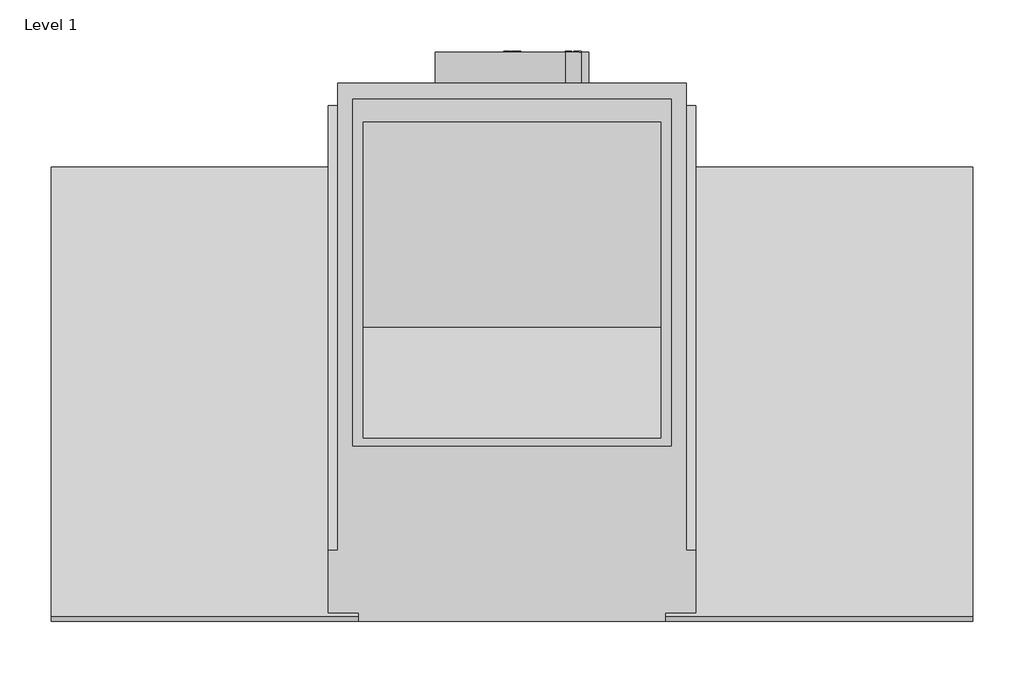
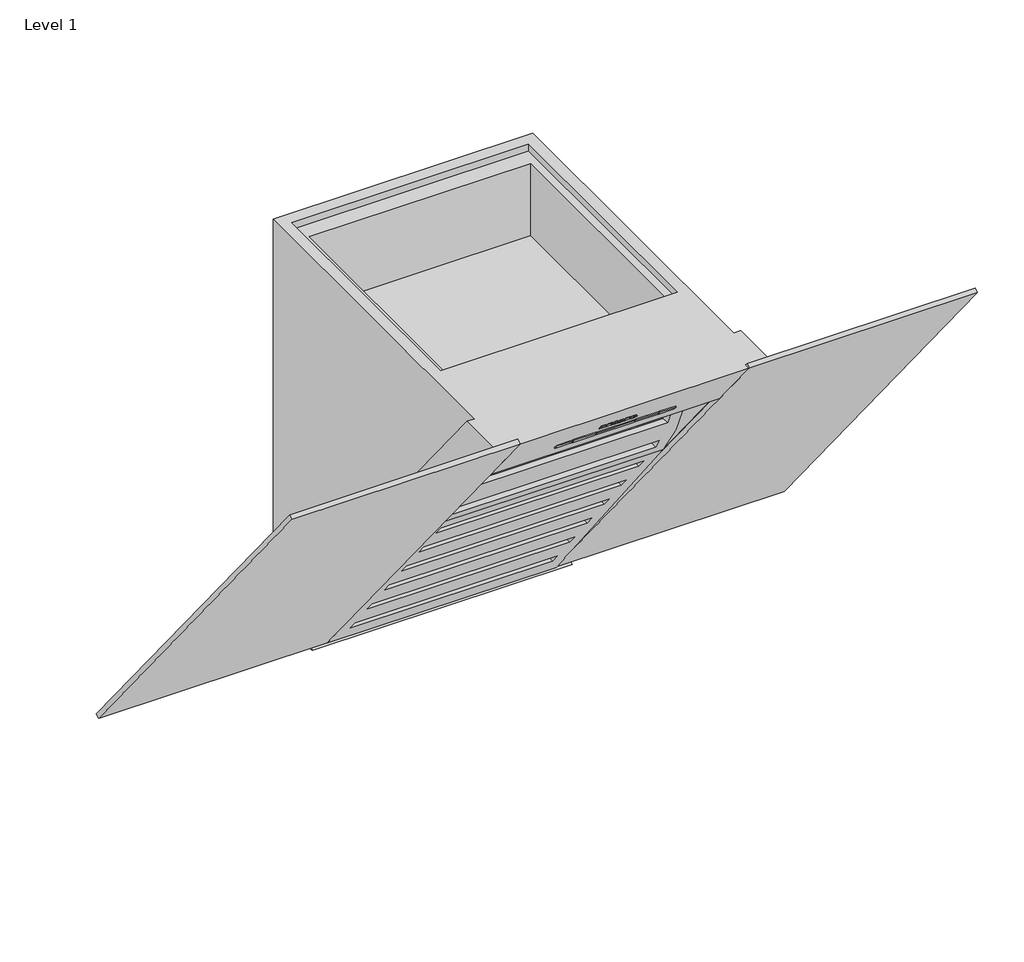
# One storey: 1 proxy.
"""IFC4 building model written with IfcOpenShell, lengths in millimetres."""

from ifc_helpers import new_model, si_unit, origin, place, context, project, spatial, transform, mapped, element, save
from components import specialty_equipment_932cc7be

model = new_model("IFC4")

# Units and contexts
model_context = context("Model", 3, world=origin())
ifc_project = project(units=[si_unit("LENGTHUNIT", "METRE", prefix="MILLI")], contexts=[model_context])

# Site, building, storey
site = spatial("IfcSite", under=ifc_project)
building = spatial("IfcBuilding", under=site)
storey = spatial("IfcBuildingStorey", under=building, Name="Level 1", Elevation=0.0)

# Proxy
placement = place(None, origin())
specialty_equipment_shape = specialty_equipment_932cc7be(model_context)
element("IfcBuildingElementProxy", 1, Name="09982550_IB_DA6096W_OBSW : 28609640_IB_9982550_DA6096W_OBSW", ObjectType="09982550_IB_DA6096W_OBSW : 28609640_IB_9982550_DA6096W_OBSW", at=placement, inside=storey, context=model_context, shape_type="MappedRepresentation", body=[
    mapped(specialty_equipment_shape, transform((0.0, 0.0, 0.0), x_axis=(1.0, 0.0, 0.0), y_axis=(0.0, 1.0, 0.0), z_axis=(0.0, 0.0, 1.0))),
])

save(model, "model.ifc")
